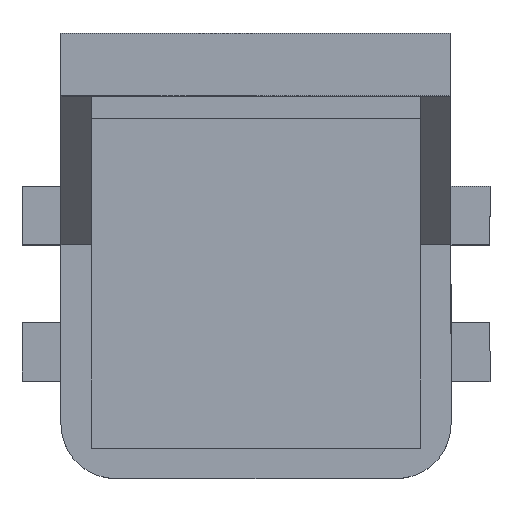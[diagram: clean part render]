
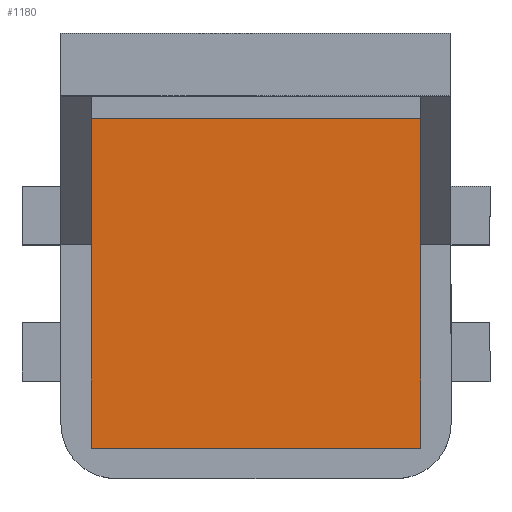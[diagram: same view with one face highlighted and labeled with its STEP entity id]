
A CAD part, top view. The second image highlights one B-rep face of the part: STEP entity #1180.
In plain terms, the highlighted planar face has unit normal (0, 0, 1).
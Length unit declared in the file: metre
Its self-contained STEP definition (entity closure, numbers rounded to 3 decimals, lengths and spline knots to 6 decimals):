
#37 = LINE ( 'NONE', #466, #2237 ) ;
#76 = AXIS2_PLACEMENT_3D ( 'NONE', #80, #2178, #110 ) ;
#80 = CARTESIAN_POINT ( 'NONE',  ( 0., 0., 0.048 ) ) ;
#82 = EDGE_CURVE ( 'NONE', #1944, #2280, #1854, .T. ) ;
#110 = DIRECTION ( 'NONE',  ( 1., 0., 0. ) ) ;
#129 = LINE ( 'NONE', #1056, #2359 ) ;
#138 = ORIENTED_EDGE ( 'NONE', *, *, #497, .T. ) ;
#348 = CARTESIAN_POINT ( 'NONE',  ( -0.02115, 0.02115, 0.048 ) ) ;
#466 = CARTESIAN_POINT ( 'NONE',  ( -0.02115, 0.02115, 0.048 ) ) ;
#497 = EDGE_CURVE ( 'NONE', #1503, #1944, #37, .T. ) ;
#528 = CARTESIAN_POINT ( 'NONE',  ( -0.02115, -0.02115, 0.048 ) ) ;
#675 = DIRECTION ( 'NONE',  ( 1., 0., 0. ) ) ;
#800 = EDGE_CURVE ( 'NONE', #1742, #1503, #1248, .T. ) ;
#827 = CARTESIAN_POINT ( 'NONE',  ( -0.02115, 0.02115, 0.048 ) ) ;
#889 = EDGE_CURVE ( 'NONE', #2280, #1742, #129, .T. ) ;
#922 = CARTESIAN_POINT ( 'NONE',  ( -0.02115, -0.02115, 0.048 ) ) ;
#948 = DIRECTION ( 'NONE',  ( 0., -1., 0. ) ) ;
#1056 = CARTESIAN_POINT ( 'NONE',  ( 0.02115, 0.02115, 0.048 ) ) ;
#1170 = CARTESIAN_POINT ( 'NONE',  ( 0.02115, 0.02115, 0.048 ) ) ;
#1180 = ADVANCED_FACE ( 'NONE', ( #1971 ), #2148, .T. ) ;
#1248 = LINE ( 'NONE', #827, #2666 ) ;
#1503 = VERTEX_POINT ( 'NONE', #348 ) ;
#1563 = EDGE_LOOP ( 'NONE', ( #2871, #1802, #138, #2360 ) ) ;
#1742 = VERTEX_POINT ( 'NONE', #1170 ) ;
#1744 = CARTESIAN_POINT ( 'NONE',  ( 0.02115, -0.02115, 0.048 ) ) ;
#1802 = ORIENTED_EDGE ( 'NONE', *, *, #800, .T. ) ;
#1837 = VECTOR ( 'NONE', #675, 1. ) ;
#1854 = LINE ( 'NONE', #922, #1837 ) ;
#1944 = VERTEX_POINT ( 'NONE', #528 ) ;
#1971 = FACE_OUTER_BOUND ( 'NONE', #1563, .T. ) ;
#1973 = DIRECTION ( 'NONE',  ( 0., 1., 0. ) ) ;
#2148 = PLANE ( 'NONE',  #76 ) ;
#2178 = DIRECTION ( 'NONE',  ( 0., 0., 1. ) ) ;
#2237 = VECTOR ( 'NONE', #948, 1. ) ;
#2280 = VERTEX_POINT ( 'NONE', #1744 ) ;
#2359 = VECTOR ( 'NONE', #1973, 1. ) ;
#2360 = ORIENTED_EDGE ( 'NONE', *, *, #82, .T. ) ;
#2446 = DIRECTION ( 'NONE',  ( -1., 0., 0. ) ) ;
#2666 = VECTOR ( 'NONE', #2446, 1. ) ;
#2871 = ORIENTED_EDGE ( 'NONE', *, *, #889, .T. ) ;
